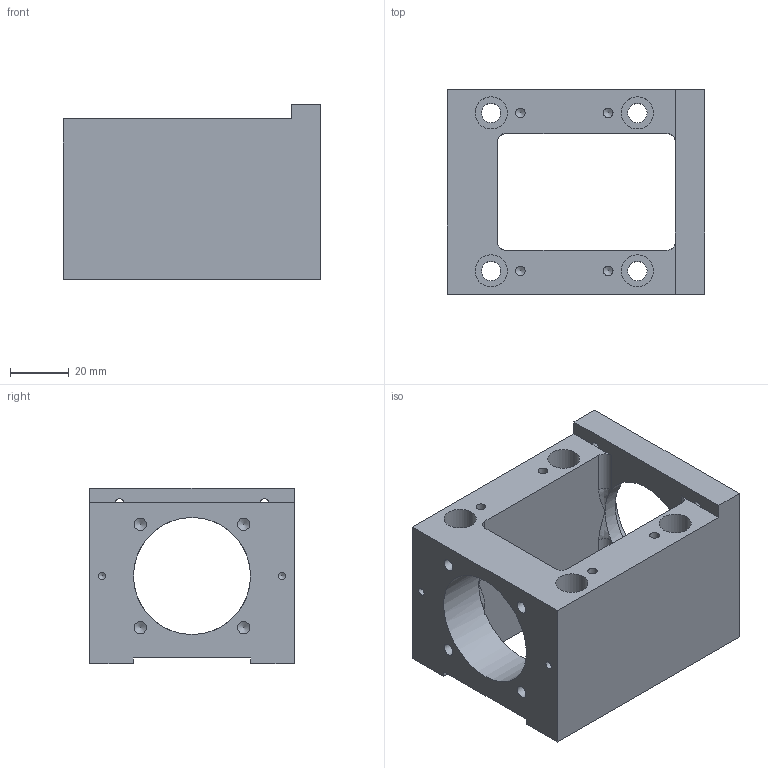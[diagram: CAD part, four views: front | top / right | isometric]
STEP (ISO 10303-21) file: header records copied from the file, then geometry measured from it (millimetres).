
FILE_DESCRIPTION(/* description */ (''),/* implementation_level */ '2;1');
FILE_NAME(/* name */ 'M60DP-FK15-H.stp',/* time_stamp */ '2017-08-17T14:28:04+08:00',/* author */ (''),/* organization */ (''),/* preprocessor_version */ 'ST-DEVELOPER v15',/* originating_system */ 'SIEMENS PLM Software NX 9.0',/* authorisation */ '');
FILE_SCHEMA (('CONFIG_CONTROL_DESIGN'));
Length unit declared in the file: millimetre
Products named in the file (1): MBH15-DP
Bounding box: 88 x 70 x 60 mm (x, y, z)
Volume: 156334.2 mm3; surface area: 41336 mm2
Topology: 1 solids, 1 shells, 76 faces, 214 edges, 133 vertices
Faces by surface type: cylinder 33, plane 25, cone 10, bspline 8
Full cylindrical faces by diameter (mm): 2.6 x2, 3.3 x8, 4.2 x4, 6.6 x4, 11 x4, 40 x2, 50 x1
Entity records: 2322 total; most frequent: CARTESIAN_POINT 561, DIRECTION 352, ORIENTED_EDGE 288, AXIS2_PLACEMENT_3D 147, EDGE_CURVE 144, EDGE_LOOP 130, VERTEX_POINT 116, FACE_BOUND 109
